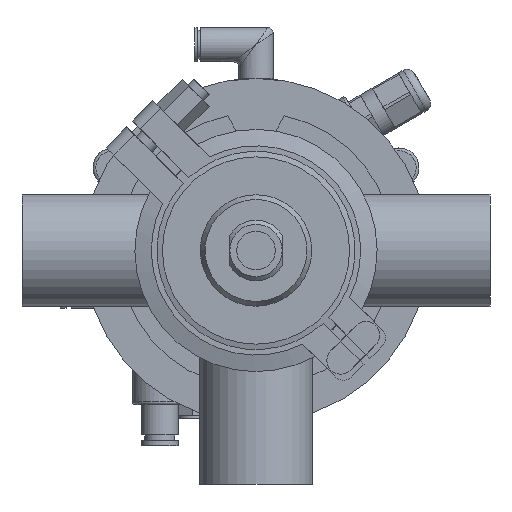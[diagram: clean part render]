
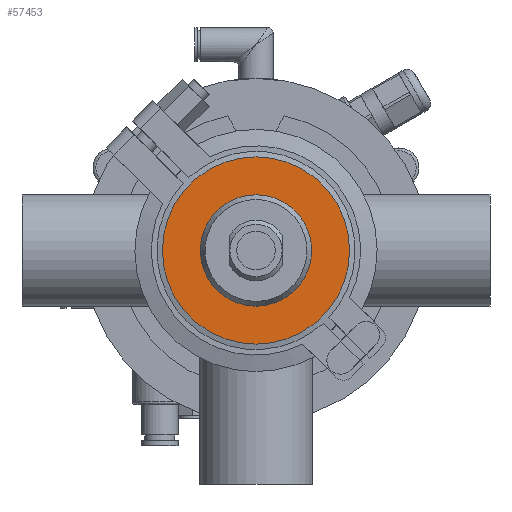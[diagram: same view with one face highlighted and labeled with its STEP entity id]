
A CAD part, front view. The second image highlights one B-rep face of the part: STEP entity #57453.
In plain terms, the highlighted planar face has unit normal (0, -1, 0).
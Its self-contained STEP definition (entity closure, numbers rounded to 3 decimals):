
#521 = DIRECTION ( 'NONE',  ( 0., 0., 1. ) ) ;
#4992 = DIRECTION ( 'NONE',  ( 0., 0., 1. ) ) ;
#5174 = CARTESIAN_POINT ( 'NONE',  ( 0., -13., 0. ) ) ;
#8992 = CARTESIAN_POINT ( 'NONE',  ( 0., -13., 20.25 ) ) ;
#11801 = EDGE_LOOP ( 'NONE', ( #24427 ) ) ;
#12107 = AXIS2_PLACEMENT_3D ( 'NONE', #14312, #28952, #32668 ) ;
#13562 = ORIENTED_EDGE ( 'NONE', *, *, #14671, .F. ) ;
#13685 = FACE_OUTER_BOUND ( 'NONE', #14814, .T. ) ;
#14312 = CARTESIAN_POINT ( 'NONE',  ( -34., -13., 0. ) ) ;
#14671 = EDGE_CURVE ( 'NONE', #18423, #18423, #17294, .T. ) ;
#14814 = EDGE_LOOP ( 'NONE', ( #13562 ) ) ;
#17294 = CIRCLE ( 'NONE', #29282, 34. ) ;
#17408 = VERTEX_POINT ( 'NONE', #8992 ) ;
#17790 = CARTESIAN_POINT ( 'NONE',  ( 0., -13., 34. ) ) ;
#18423 = VERTEX_POINT ( 'NONE', #17790 ) ;
#24198 = DIRECTION ( 'NONE',  ( 0., 1., 0. ) ) ;
#24427 = ORIENTED_EDGE ( 'NONE', *, *, #30022, .T. ) ;
#28709 = CARTESIAN_POINT ( 'NONE',  ( 0., -13., 0. ) ) ;
#28952 = DIRECTION ( 'NONE',  ( 0., -1., 0. ) ) ;
#29282 = AXIS2_PLACEMENT_3D ( 'NONE', #28709, #43004, #4992 ) ;
#30022 = EDGE_CURVE ( 'NONE', #17408, #17408, #36452, .T. ) ;
#32668 = DIRECTION ( 'NONE',  ( 0., 0., -1. ) ) ;
#35446 = AXIS2_PLACEMENT_3D ( 'NONE', #5174, #24198, #521 ) ;
#36452 = CIRCLE ( 'NONE', #35446, 20.25 ) ;
#43004 = DIRECTION ( 'NONE',  ( 0., 1., 0. ) ) ;
#51672 = PLANE ( 'NONE',  #12107 ) ;
#56957 = FACE_BOUND ( 'NONE', #11801, .T. ) ;
#57453 = ADVANCED_FACE ( 'NONE', ( #56957, #13685 ), #51672, .T. ) ;
